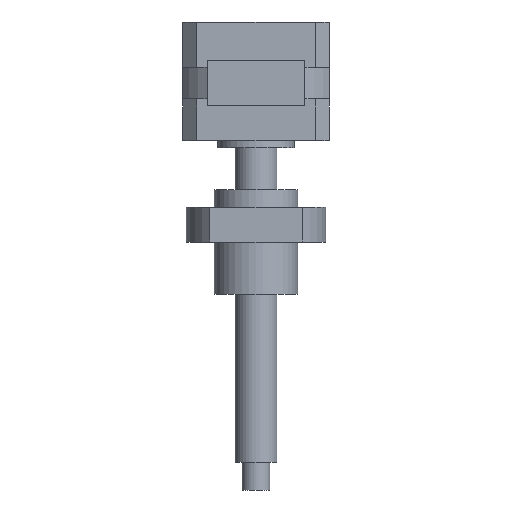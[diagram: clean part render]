
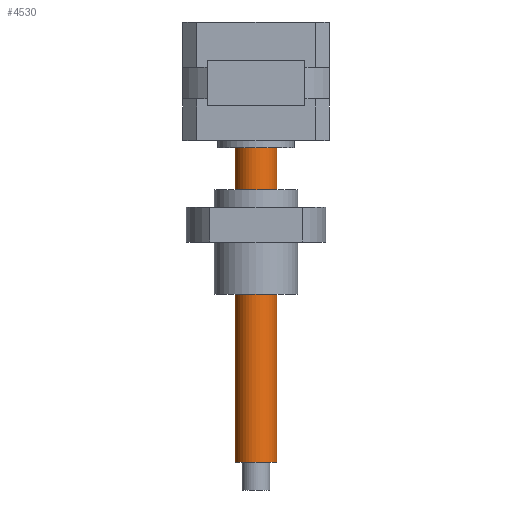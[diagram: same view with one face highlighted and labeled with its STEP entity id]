
A CAD part, front view. The second image highlights one B-rep face of the part: STEP entity #4530.
In plain terms, the highlighted cylindrical face has radius 6 mm (diameter 12 mm), a partial arc.
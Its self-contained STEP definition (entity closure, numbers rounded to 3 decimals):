
#52 = DIRECTION ( 'NONE',  ( 1., 0., 0. ) ) ;
#142 = DIRECTION ( 'NONE',  ( 0., 0., -1. ) ) ;
#432 = VERTEX_POINT ( 'NONE', #920 ) ;
#716 = DIRECTION ( 'NONE',  ( 0., 0., 1. ) ) ;
#920 = CARTESIAN_POINT ( 'NONE',  ( 6., 0., -73. ) ) ;
#962 = VERTEX_POINT ( 'NONE', #6677 ) ;
#1022 = ORIENTED_EDGE ( 'NONE', *, *, #1480, .T. ) ;
#1375 = CARTESIAN_POINT ( 'NONE',  ( 6., 0., 29. ) ) ;
#1435 = DIRECTION ( 'NONE',  ( 0., 0., 1. ) ) ;
#1480 = EDGE_CURVE ( 'NONE', #432, #2878, #2633, .T. ) ;
#1588 = VERTEX_POINT ( 'NONE', #2032 ) ;
#1692 = AXIS2_PLACEMENT_3D ( 'NONE', #3545, #142, #4131 ) ;
#1938 = EDGE_CURVE ( 'NONE', #432, #1588, #2626, .T. ) ;
#2019 = ORIENTED_EDGE ( 'NONE', *, *, #5980, .T. ) ;
#2032 = CARTESIAN_POINT ( 'NONE',  ( -6., 0., -73. ) ) ;
#2626 = CIRCLE ( 'NONE', #7094, 6. ) ;
#2633 = LINE ( 'NONE', #5385, #3938 ) ;
#2878 = VERTEX_POINT ( 'NONE', #1375 ) ;
#2926 = AXIS2_PLACEMENT_3D ( 'NONE', #4036, #6922, #52 ) ;
#3504 = CARTESIAN_POINT ( 'NONE',  ( -6., 0., -390. ) ) ;
#3517 = EDGE_LOOP ( 'NONE', ( #5510, #6161, #1022, #2019 ) ) ;
#3545 = CARTESIAN_POINT ( 'NONE',  ( 0., 0., 29. ) ) ;
#3938 = VECTOR ( 'NONE', #1435, 1000. ) ;
#4036 = CARTESIAN_POINT ( 'NONE',  ( 0., 0., -390. ) ) ;
#4131 = DIRECTION ( 'NONE',  ( -1., 0., 0. ) ) ;
#4530 = ADVANCED_FACE ( 'NONE', ( #6632 ), #6449, .T. ) ;
#4848 = DIRECTION ( 'NONE',  ( -1., 0., 0. ) ) ;
#5011 = CIRCLE ( 'NONE', #1692, 6. ) ;
#5118 = DIRECTION ( 'NONE',  ( 0., 0., -1. ) ) ;
#5143 = CARTESIAN_POINT ( 'NONE',  ( 0., 0., -73. ) ) ;
#5385 = CARTESIAN_POINT ( 'NONE',  ( 6., 0., -390. ) ) ;
#5510 = ORIENTED_EDGE ( 'NONE', *, *, #7203, .F. ) ;
#5980 = EDGE_CURVE ( 'NONE', #2878, #962, #5011, .T. ) ;
#6161 = ORIENTED_EDGE ( 'NONE', *, *, #1938, .F. ) ;
#6449 = CYLINDRICAL_SURFACE ( 'NONE', #2926, 6. ) ;
#6632 = FACE_OUTER_BOUND ( 'NONE', #3517, .T. ) ;
#6677 = CARTESIAN_POINT ( 'NONE',  ( -6., 0., 29. ) ) ;
#6922 = DIRECTION ( 'NONE',  ( 0., 0., 1. ) ) ;
#7094 = AXIS2_PLACEMENT_3D ( 'NONE', #5143, #5118, #4848 ) ;
#7168 = VECTOR ( 'NONE', #716, 1000. ) ;
#7203 = EDGE_CURVE ( 'NONE', #1588, #962, #7332, .T. ) ;
#7332 = LINE ( 'NONE', #3504, #7168 ) ;
